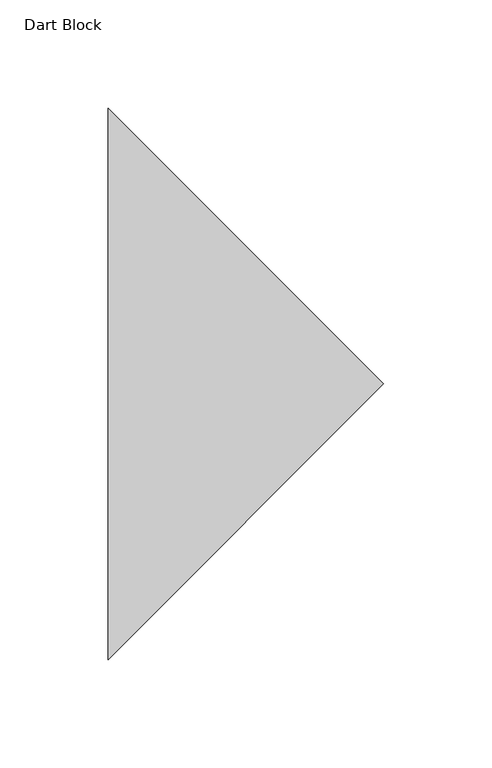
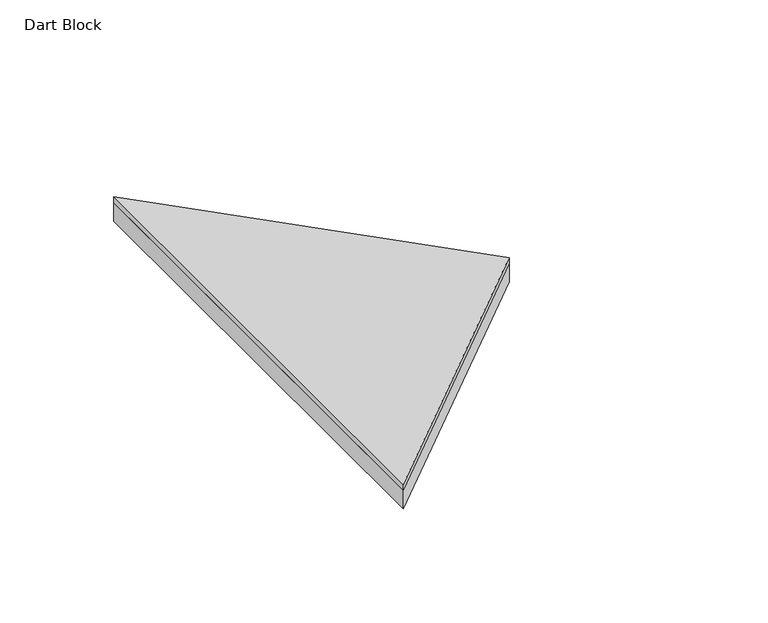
"""IFC4 building model written with IfcOpenShell, lengths in millimetres: proxy geometry, FilzFelt_Dart_Block : Dart Block."""

from ifc_helpers import new_model, si_unit, frame, origin, origin_with_axes, place, context, project, spatial, polyline, outline, extrude, source, transform, mapped, element, save


def dart_block_5e9ce8aa(model_context):
    return source(origin(), model_context, "Body", "SweptSolid", [
        extrude(outline(polyline([(0.0, -63.5), (-127.0, -190.5), (-127.0, 63.5), (0.0, -63.5)])), frame((0.0, 0.0, 10.0210937), z_axis=(0.0, 0.0, 1.0), x_axis=(1.0, 0.0, 0.0)), (0.0, 0.0, 1.0), 2.9765625),
        extrude(outline(polyline([(0.0, -63.5), (-127.0, -190.5), (-127.0, 63.5), (0.0, -63.5)])), origin_with_axes(), (0.0, 0.0, 1.0), 10.0210938),
    ])


if __name__ == "__main__":
    model = new_model("IFC4")
    model_context = context("Model", 3, world=origin())
    ifc_project = project(units=[si_unit("LENGTHUNIT", "METRE", prefix="MILLI")], contexts=[model_context])
    site = spatial("IfcSite", under=ifc_project)
    building = spatial("IfcBuilding", under=site)
    placement = place(None, origin())
    dart_block_shape = dart_block_5e9ce8aa(model_context)
    element("IfcBuildingElementProxy", 1, Name="FilzFelt_Dart_Block : Dart Block", ObjectType="FilzFelt_Dart_Block : Dart Block", at=placement, inside=building, context=model_context, shape_type="MappedRepresentation", body=[
        mapped(dart_block_shape, transform((0.0, 0.0, 0.0), x_axis=(1.0, 0.0, 0.0), y_axis=(0.0, 1.0, 0.0), z_axis=(0.0, 0.0, 1.0))),
    ])
    save(model, "model.ifc")
